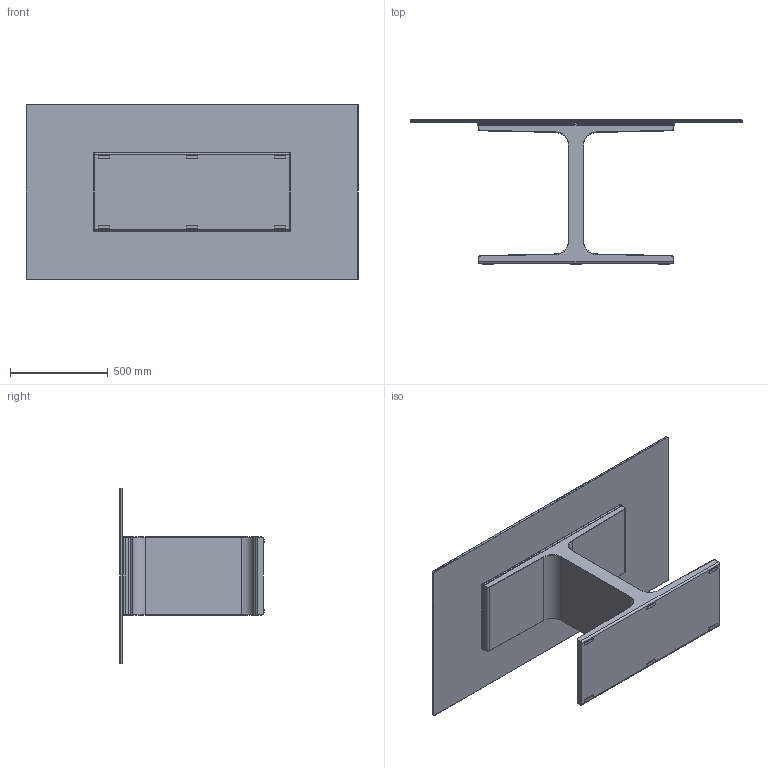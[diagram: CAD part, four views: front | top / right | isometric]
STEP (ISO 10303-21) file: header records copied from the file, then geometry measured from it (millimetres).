
FILE_DESCRIPTION((''),'2;1');
FILE_NAME('C:\AutodeskVault\AreaLavoro\Progetti\SoVeT Italia\1. Tavoli_Dining tables\Palace\Palace\Web file\Palace Web\P1560.stp','2012-04-27T17:27:23',('Gianluca'),('So.Ve.T. s.r.l.'),'Autodesk Inventor 2011','Autodesk Inventor 2011','IL PROGETTO E'' DI ESCLUSIVA PROPRIETA'' DELLA SO.VE.T. srl. E'' VIETATA OGNI RIPRODUZIONE TOTALE O PARZIALE EQUALSIASI UTILIZZO NON AUTORIZZATO.');
FILE_SCHEMA(('AUTOMOTIVE_DESIGN { 1 0 10303 214 1 1 1 1 }'));
Length unit declared in the file: millimetre
Products named in the file (1): P1560 Contorno semplificato
Bounding box: 1700 x 738 x 900.01 mm (x, y, z)
Volume: 76668674.6 mm3; surface area: 5525261 mm2
Topology: 2 solids, 2 shells, 336 faces, 838 edges, 532 vertices
Faces by surface type: plane 237, cylinder 44, bspline 31, torus 16, cone 8
Entity records: 11254 total; most frequent: CARTESIAN_POINT 3030, ORIENTED_EDGE 1676, DIRECTION 1472, EDGE_CURVE 838, VECTOR 684, LINE 684, VERTEX_POINT 532, AXIS2_PLACEMENT_3D 394
